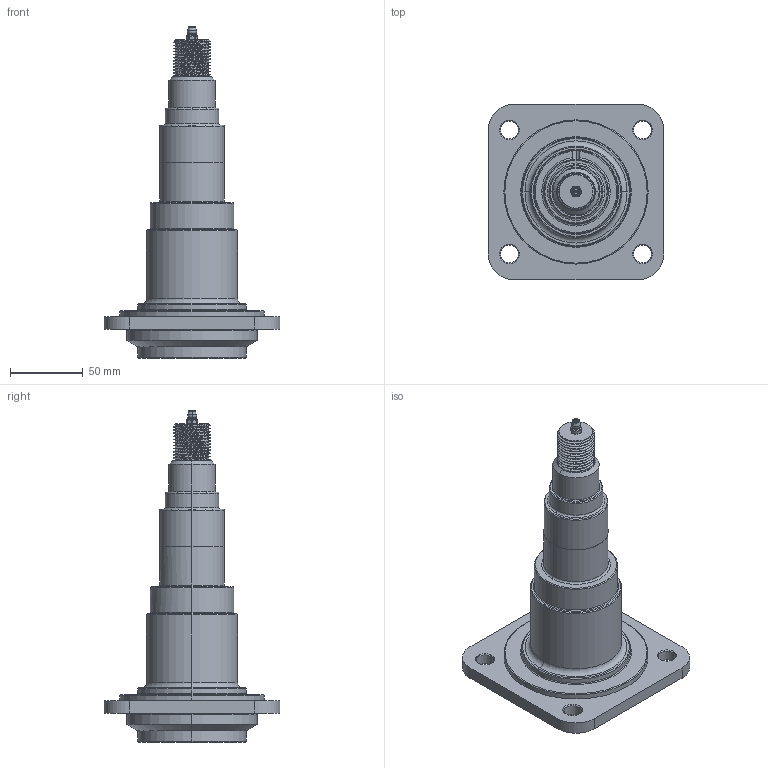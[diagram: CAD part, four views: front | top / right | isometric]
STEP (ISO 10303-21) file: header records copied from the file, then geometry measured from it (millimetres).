
FILE_DESCRIPTION (( 'STEP AP214' ), '1' );
FILE_NAME ('TA8K3.375 Spindle.STEP', '2025-10-31T15:07:09', ( '' ), ( '' ), 'SwSTEP 2.0', 'SolidWorks 2023', '' );
FILE_SCHEMA (( 'AUTOMOTIVE_DESIGN' ));
Length unit declared in the file: millimetre
Products named in the file (3): TA8K3.375 Spindle; 1-4-28-GREASE-FITTING_HG 1350-010 01; TA8K3.375
Assembly tree (2 placements, depth 2):
  TA8K3.375 Spindle
    TA8K3.375
    1-4-28-GREASE-FITTING_HG 1350-010 01
Bounding box: 120.65 x 120.65 x 227.8 mm (x, y, z)
Volume: 599913.5 mm3; surface area: 68227.8 mm2
Topology: 4 solids, 4 shells, 205 faces, 490 edges, 297 vertices
Faces by surface type: cylinder 73, torus 40, cone 36, plane 31, bspline 15, sphere 10
Entity records: 13083 total; most frequent: CARTESIAN_POINT 8376, DIRECTION 986, ORIENTED_EDGE 954, EDGE_CURVE 477, AXIS2_PLACEMENT_3D 423, VERTEX_POINT 290, CIRCLE 228, EDGE_LOOP 227
